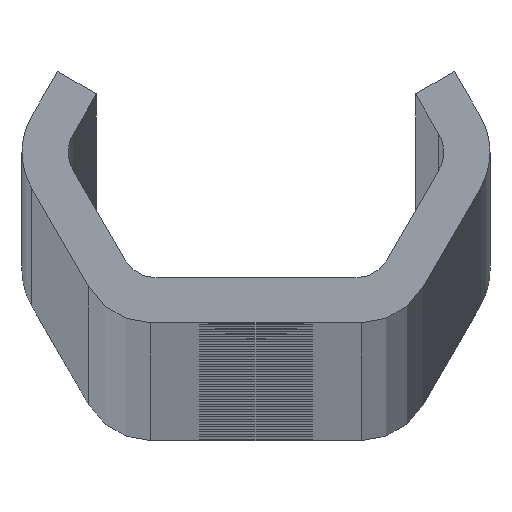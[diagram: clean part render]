
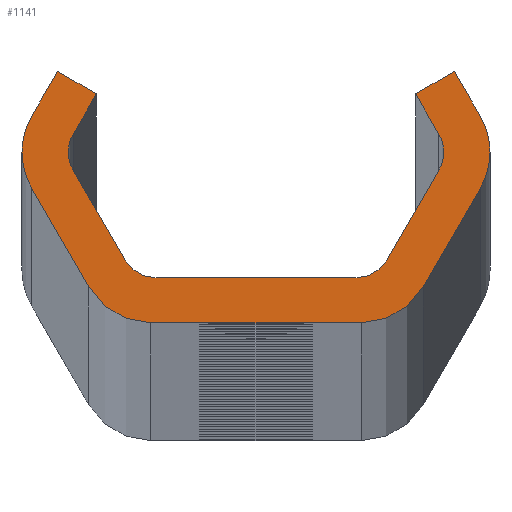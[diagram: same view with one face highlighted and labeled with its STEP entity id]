
A CAD part, top view. The second image highlights one B-rep face of the part: STEP entity #1141.
In plain terms, the highlighted planar face has unit normal (0, 0, 1).
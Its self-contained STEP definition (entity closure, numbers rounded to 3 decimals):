
#1141=ADVANCED_FACE('NONE',(#3089),#3090,.F.);
#3089=FACE_OUTER_BOUND('',#9863,.T.);
#3090=PLANE('',#9864);
#9863=EDGE_LOOP('',(#20121,#20122,#20123,#20124,#20125,#20126,#20127,#20128,#20129,#20130,#20131,#20132,#20133,#20134,#20135,#20136,#20137,#20138,#20139,#20140,#20141,#20142,#20143,#20144));
#9864=AXIS2_PLACEMENT_3D('',#20145,#20146,#20147);
#20121=ORIENTED_EDGE('',*,*,#26459,.T.);
#20122=ORIENTED_EDGE('',*,*,#26476,.T.);
#20123=ORIENTED_EDGE('',*,*,#26461,.T.);
#20124=ORIENTED_EDGE('',*,*,#26477,.T.);
#20125=ORIENTED_EDGE('',*,*,#26470,.F.);
#20126=ORIENTED_EDGE('',*,*,#26478,.T.);
#20127=ORIENTED_EDGE('',*,*,#25354,.T.);
#20128=ORIENTED_EDGE('',*,*,#26473,.F.);
#20129=ORIENTED_EDGE('',*,*,#25978,.F.);
#20130=ORIENTED_EDGE('',*,*,#25982,.F.);
#20131=ORIENTED_EDGE('',*,*,#25608,.T.);
#20132=ORIENTED_EDGE('',*,*,#26479,.T.);
#20133=ORIENTED_EDGE('',*,*,#25986,.F.);
#20134=ORIENTED_EDGE('',*,*,#26480,.T.);
#20135=ORIENTED_EDGE('',*,*,#25991,.F.);
#20136=ORIENTED_EDGE('',*,*,#26481,.T.);
#20137=ORIENTED_EDGE('',*,*,#26442,.T.);
#20138=ORIENTED_EDGE('',*,*,#26482,.T.);
#20139=ORIENTED_EDGE('',*,*,#25349,.T.);
#20140=ORIENTED_EDGE('',*,*,#26445,.T.);
#20141=ORIENTED_EDGE('',*,*,#26451,.T.);
#20142=ORIENTED_EDGE('',*,*,#26455,.T.);
#20143=ORIENTED_EDGE('',*,*,#26483,.T.);
#20144=ORIENTED_EDGE('',*,*,#25611,.T.);
#20145=CARTESIAN_POINT('',(0.0,0.0,3760.0));
#20146=DIRECTION('',(0.0,0.0,-1.0));
#20147=DIRECTION('',(0.0,-1.0,0.0));
#25349=EDGE_CURVE('NONE',#28234,#28238,#28240,.T.);
#25354=EDGE_CURVE('NONE',#28243,#28247,#28249,.T.);
#25608=EDGE_CURVE('NONE',#28706,#28704,#28707,.T.);
#25611=EDGE_CURVE('NONE',#28710,#28711,#28712,.T.);
#25978=EDGE_CURVE('NONE',#29262,#29264,#29265,.T.);
#25982=EDGE_CURVE('NONE',#28706,#29262,#29269,.T.);
#25986=EDGE_CURVE('NONE',#29274,#29276,#29277,.T.);
#25991=EDGE_CURVE('NONE',#29283,#29285,#29286,.T.);
#26442=EDGE_CURVE('NONE',#30160,#30158,#30161,.T.);
#26445=EDGE_CURVE('NONE',#28238,#30164,#30165,.T.);
#26451=EDGE_CURVE('NONE',#30164,#30172,#30174,.T.);
#26455=EDGE_CURVE('NONE',#30172,#30178,#30180,.T.);
#26459=EDGE_CURVE('NONE',#28711,#30184,#30186,.T.);
#26461=EDGE_CURVE('NONE',#30188,#30189,#30190,.T.);
#26470=EDGE_CURVE('NONE',#30202,#30204,#30205,.T.);
#26473=EDGE_CURVE('NONE',#29264,#28247,#30208,.T.);
#26476=EDGE_CURVE('NONE',#30184,#30188,#30211,.T.);
#26477=EDGE_CURVE('NONE',#30189,#30204,#30212,.T.);
#26478=EDGE_CURVE('NONE',#30202,#28243,#30213,.T.);
#26479=EDGE_CURVE('NONE',#28704,#29276,#30214,.T.);
#26480=EDGE_CURVE('NONE',#29274,#29285,#30215,.T.);
#26481=EDGE_CURVE('NONE',#29283,#30160,#30216,.T.);
#26482=EDGE_CURVE('NONE',#30158,#28234,#30217,.T.);
#26483=EDGE_CURVE('NONE',#30178,#28710,#30218,.T.);
#28234=VERTEX_POINT('',#32509);
#28238=VERTEX_POINT('NONE',#32514);
#28240=CIRCLE('',#32517,2.0);
#28243=VERTEX_POINT('',#32520);
#28247=VERTEX_POINT('NONE',#32525);
#28249=CIRCLE('',#32528,4.0);
#28704=VERTEX_POINT('NONE',#37187);
#28706=VERTEX_POINT('NONE',#37190);
#28707=CIRCLE('',#37191,2.0);
#28710=VERTEX_POINT('NONE',#37195);
#28711=VERTEX_POINT('NONE',#37196);
#28712=CIRCLE('',#37197,4.0);
#29262=VERTEX_POINT('NONE',#37840);
#29264=VERTEX_POINT('NONE',#37843);
#29265=LINE('',#37844,#37845);
#29269=LINE('',#37851,#37852);
#29274=VERTEX_POINT('NONE',#37858);
#29276=VERTEX_POINT('NONE',#37861);
#29277=LINE('',#37862,#37863);
#29283=VERTEX_POINT('NONE',#37871);
#29285=VERTEX_POINT('NONE',#37874);
#29286=LINE('',#37875,#37876);
#30158=VERTEX_POINT('NONE',#41150);
#30160=VERTEX_POINT('NONE',#41153);
#30161=LINE('',#41154,#41155);
#30164=VERTEX_POINT('NONE',#41159);
#30165=LINE('',#41160,#41161);
#30172=VERTEX_POINT('NONE',#41171);
#30174=LINE('',#41174,#41175);
#30178=VERTEX_POINT('NONE',#41180);
#30180=LINE('',#41183,#41184);
#30184=VERTEX_POINT('NONE',#41189);
#30186=LINE('',#41192,#41193);
#30188=VERTEX_POINT('NONE',#41195);
#30189=VERTEX_POINT('NONE',#41196);
#30190=LINE('',#41197,#41198);
#30202=VERTEX_POINT('NONE',#41214);
#30204=VERTEX_POINT('NONE',#41217);
#30205=LINE('',#41218,#41219);
#30208=LINE('',#41223,#41224);
#30211=CIRCLE('',#41228,4.0);
#30212=CIRCLE('',#41229,4.0);
#30213=CIRCLE('',#41230,4.0);
#30214=CIRCLE('',#41231,2.0);
#30215=CIRCLE('',#41232,2.0);
#30216=CIRCLE('',#41233,2.0);
#30217=CIRCLE('',#41234,2.0);
#30218=CIRCLE('',#41235,4.0);
#32509=CARTESIAN_POINT('',(-10.455,0.,3760.0));
#32514=CARTESIAN_POINT('',(-10.187,1.,3760.0));
#32517=AXIS2_PLACEMENT_3D('',#48929,#48930,#48931);
#32520=CARTESIAN_POINT('',(13.032,0.,3760.0));
#32525=CARTESIAN_POINT('',(12.496,2.0,3760.0));
#32528=AXIS2_PLACEMENT_3D('',#48937,#48938,#48939);
#37187=CARTESIAN_POINT('',(10.455,0.,3760.0));
#37190=CARTESIAN_POINT('',(10.187,1.,3760.0));
#37191=AXIS2_PLACEMENT_3D('',#49056,#49057,#49058);
#37195=CARTESIAN_POINT('',(-13.032,0.,3760.0));
#37196=CARTESIAN_POINT('',(-12.496,-2.,3760.0));
#37197=AXIS2_PLACEMENT_3D('',#49060,#49061,#49062);
#37840=CARTESIAN_POINT('',(8.888,3.25,3760.0));
#37843=CARTESIAN_POINT('',(11.053,4.5,3760.0));
#37844=CARTESIAN_POINT('',(8.888,3.25,3760.0));
#37845=VECTOR('',#49700,1000.0);
#37851=CARTESIAN_POINT('',(10.764,0.,3760.0));
#37852=VECTOR('',#49703,1000.0);
#37858=CARTESIAN_POINT('',(7.3,-6.,3760.0));
#37861=CARTESIAN_POINT('',(10.187,-1.,3760.0));
#37862=CARTESIAN_POINT('',(6.723,-7.0,3760.0));
#37863=VECTOR('',#49706,1000.0);
#37871=CARTESIAN_POINT('',(-5.568,-7.0,3760.0));
#37874=CARTESIAN_POINT('',(5.568,-7.0,3760.0));
#37875=CARTESIAN_POINT('',(-6.723,-7.0,3760.0));
#37876=VECTOR('',#49710,1000.0);
#41150=CARTESIAN_POINT('',(-10.187,-1.,3760.0));
#41153=CARTESIAN_POINT('',(-7.3,-6.,3760.0));
#41154=CARTESIAN_POINT('',(-6.723,-7.0,3760.0));
#41155=VECTOR('',#50116,1000.0);
#41159=CARTESIAN_POINT('',(-8.888,3.25,3760.0));
#41160=CARTESIAN_POINT('',(-10.764,0.0,3760.0));
#41161=VECTOR('',#50118,1000.0);
#41171=CARTESIAN_POINT('',(-11.053,4.5,3760.0));
#41174=CARTESIAN_POINT('',(-8.888,3.25,3760.0));
#41175=VECTOR('',#50123,1000.0);
#41180=CARTESIAN_POINT('',(-12.496,2.0,3760.0));
#41183=CARTESIAN_POINT('',(-11.053,4.5,3760.0));
#41184=VECTOR('',#50126,1000.0);
#41189=CARTESIAN_POINT('',(-9.321,-7.5,3760.0));
#41192=CARTESIAN_POINT('',(-13.651,0.0,3760.0));
#41193=VECTOR('',#50129,1000.0);
#41195=CARTESIAN_POINT('',(-5.857,-9.5,3760.0));
#41196=CARTESIAN_POINT('',(5.857,-9.5,3760.0));
#41197=CARTESIAN_POINT('',(-8.166,-9.5,3760.0));
#41198=VECTOR('',#50130,1000.0);
#41214=CARTESIAN_POINT('',(12.496,-2.,3760.0));
#41217=CARTESIAN_POINT('',(9.321,-7.5,3760.0));
#41218=CARTESIAN_POINT('',(13.651,0.,3760.0));
#41219=VECTOR('',#50142,1000.0);
#41223=CARTESIAN_POINT('',(11.053,4.5,3760.0));
#41224=VECTOR('',#50144,1000.0);
#41228=AXIS2_PLACEMENT_3D('',#50146,#50147,#50148);
#41229=AXIS2_PLACEMENT_3D('',#50149,#50150,#50151);
#41230=AXIS2_PLACEMENT_3D('',#50152,#50153,#50154);
#41231=AXIS2_PLACEMENT_3D('',#50155,#50156,#50157);
#41232=AXIS2_PLACEMENT_3D('',#50158,#50159,#50160);
#41233=AXIS2_PLACEMENT_3D('',#50161,#50162,#50163);
#41234=AXIS2_PLACEMENT_3D('',#50164,#50165,#50166);
#41235=AXIS2_PLACEMENT_3D('',#50167,#50168,#50169);
#48929=CARTESIAN_POINT('',(-8.455,0.,3760.0));
#48930=DIRECTION('',(0.0,0.0,-1.0));
#48931=DIRECTION('',(-1.0,0.0,0.0));
#48937=CARTESIAN_POINT('',(9.032,0.,3760.0));
#48938=DIRECTION('',(0.0,0.0,1.0));
#48939=DIRECTION('',(-1.0,0.0,0.0));
#49056=CARTESIAN_POINT('',(8.455,0.,3760.0));
#49057=DIRECTION('',(0.0,0.0,-1.0));
#49058=DIRECTION('',(-1.0,0.0,0.0));
#49060=CARTESIAN_POINT('',(-9.032,0.,3760.0));
#49061=DIRECTION('',(0.0,0.0,1.0));
#49062=DIRECTION('',(-1.0,0.0,0.0));
#49700=DIRECTION('',(0.866,0.5,0.0));
#49703=DIRECTION('',(-0.5,0.866,0.0));
#49706=DIRECTION('',(0.5,0.866,0.0));
#49710=DIRECTION('',(1.0,0.,0.0));
#50116=DIRECTION('',(-0.5,0.866,0.0));
#50118=DIRECTION('',(0.5,0.866,0.0));
#50123=DIRECTION('',(-0.866,0.5,0.0));
#50126=DIRECTION('',(-0.5,-0.866,0.0));
#50129=DIRECTION('',(0.5,-0.866,0.0));
#50130=DIRECTION('',(1.0,0.,0.0));
#50142=DIRECTION('',(-0.5,-0.866,0.0));
#50144=DIRECTION('',(0.5,-0.866,0.0));
#50146=CARTESIAN_POINT('',(-5.857,-5.5,3760.0));
#50147=DIRECTION('',(0.0,0.0,1.0));
#50148=DIRECTION('',(-1.0,0.0,0.0));
#50149=CARTESIAN_POINT('',(5.857,-5.5,3760.0));
#50150=DIRECTION('',(0.0,0.0,1.0));
#50151=DIRECTION('',(-1.0,0.0,0.0));
#50152=CARTESIAN_POINT('',(9.032,0.,3760.0));
#50153=DIRECTION('',(0.0,0.0,1.0));
#50154=DIRECTION('',(-1.0,0.0,0.0));
#50155=CARTESIAN_POINT('',(8.455,0.,3760.0));
#50156=DIRECTION('',(0.0,0.0,-1.0));
#50157=DIRECTION('',(-1.0,0.0,0.0));
#50158=CARTESIAN_POINT('',(5.568,-5.0,3760.0));
#50159=DIRECTION('',(0.0,0.0,-1.0));
#50160=DIRECTION('',(-1.0,0.0,0.0));
#50161=CARTESIAN_POINT('',(-5.568,-5.0,3760.0));
#50162=DIRECTION('',(0.0,0.0,-1.0));
#50163=DIRECTION('',(-1.0,0.0,0.0));
#50164=CARTESIAN_POINT('',(-8.455,0.,3760.0));
#50165=DIRECTION('',(0.0,0.0,-1.0));
#50166=DIRECTION('',(-1.0,0.0,0.0));
#50167=CARTESIAN_POINT('',(-9.032,0.,3760.0));
#50168=DIRECTION('',(0.0,0.0,1.0));
#50169=DIRECTION('',(-1.0,0.0,0.0));
